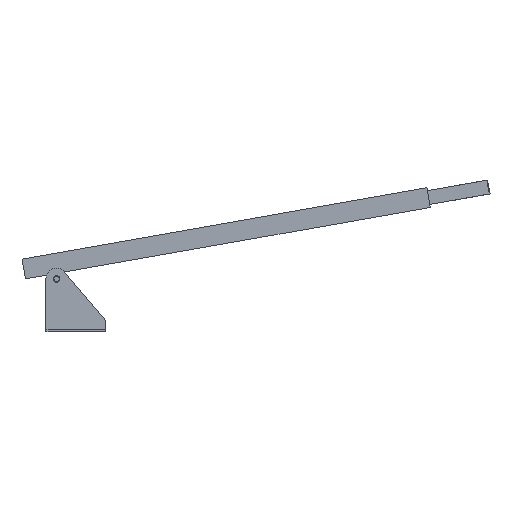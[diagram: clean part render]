
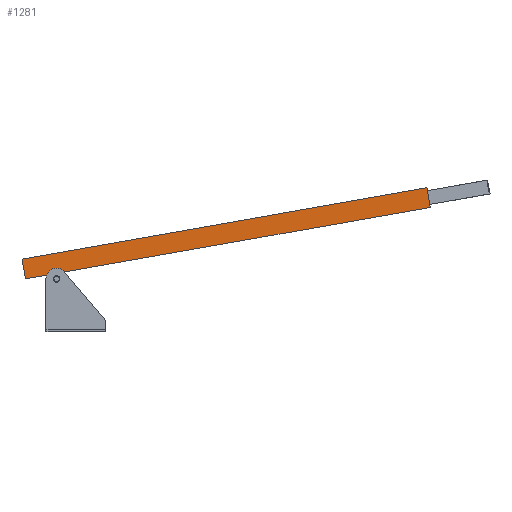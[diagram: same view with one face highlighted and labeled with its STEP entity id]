
A CAD part, left-side view. The second image highlights one B-rep face of the part: STEP entity #1281.
In plain terms, the highlighted planar face has unit normal (-1, 0, 0).
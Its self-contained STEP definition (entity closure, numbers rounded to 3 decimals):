
#185=DIRECTION('',(0.,-0.174,-0.985));
#186=VECTOR('',#185,57.);
#187=CARTESIAN_POINT('',(-275.,-998.957,410.46));
#188=LINE('',#187,#186);
#473=DIRECTION('',(0.,-0.174,-0.985));
#474=VECTOR('',#473,57.);
#475=CARTESIAN_POINT('',(-275.,153.268,207.291));
#476=LINE('',#475,#474);
#501=DIRECTION('',(0.,0.985,-0.174));
#502=VECTOR('',#501,1170.);
#503=CARTESIAN_POINT('',(-275.,-998.957,410.46));
#504=LINE('',#503,#502);
#505=DIRECTION('',(0.,0.985,-0.174));
#506=VECTOR('',#505,1170.);
#507=CARTESIAN_POINT('',(-275.,-1008.855,354.325));
#508=LINE('',#507,#506);
#594=CARTESIAN_POINT('',(-275.,153.268,207.291));
#596=VERTEX_POINT('',#594);
#599=CARTESIAN_POINT('',(-275.,143.37,151.157));
#600=VERTEX_POINT('',#599);
#610=CARTESIAN_POINT('',(-275.,-998.957,410.46));
#612=VERTEX_POINT('',#610);
#613=CARTESIAN_POINT('',(-275.,-1008.855,354.325));
#615=VERTEX_POINT('',#613);
#1269=CARTESIAN_POINT('',(-275.,143.37,151.157));
#1270=DIRECTION('',(-1.,0.,0.));
#1271=DIRECTION('',(0.,0.174,0.985));
#1272=AXIS2_PLACEMENT_3D('',#1269,#1270,#1271);
#1273=PLANE('',#1272);
#1274=ORIENTED_EDGE('',*,*,#1234,.F.);
#1275=ORIENTED_EDGE('',*,*,#1264,.F.);
#1276=ORIENTED_EDGE('',*,*,#818,.T.);
#1278=ORIENTED_EDGE('',*,*,#1277,.T.);
#1279=EDGE_LOOP('',(#1274,#1275,#1276,#1278));
#1280=FACE_OUTER_BOUND('',#1279,.F.);
#818=EDGE_CURVE('',#612,#615,#188,.T.);
#1234=EDGE_CURVE('',#596,#600,#476,.T.);
#1264=EDGE_CURVE('',#612,#596,#504,.T.);
#1277=EDGE_CURVE('',#615,#600,#508,.T.);
#1281=ADVANCED_FACE('',(#1280),#1273,.T.);
